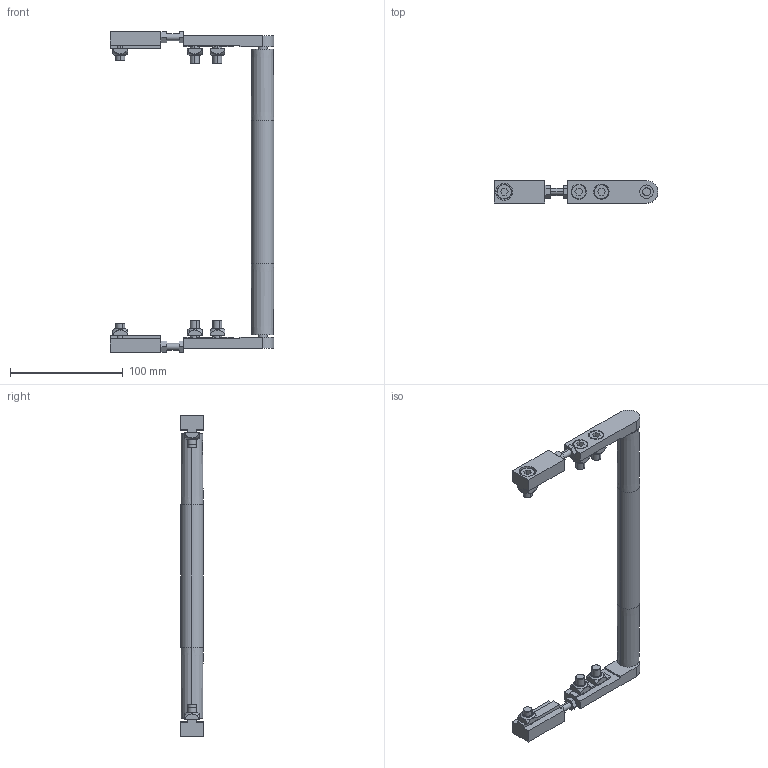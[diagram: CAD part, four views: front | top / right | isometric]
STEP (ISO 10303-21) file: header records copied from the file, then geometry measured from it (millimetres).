
FILE_DESCRIPTION (( 'STEP AP214' ), '1' );
FILE_NAME ('084.020.KI.229.STEP', '2021-02-05T13:55:09', ( '' ), ( '' ), 'SwSTEP 2.0', 'SolidWorks 2018', '' );
FILE_SCHEMA (( 'AUTOMOTIVE_DESIGN' ));
Length unit declared in the file: millimetre
Products named in the file (10): 084.800.038; 084.302.000 DADI ALUSIC 13x13-1_084.302.004; 084.800.012; 084.802.008; Circlip DIN 471 - 8 x 0.8_Circlip DIN 471 - 8 x 0.8; 084.800.007; 084.020.KI.229; 084.301.000 VITI ALUSIC_084.301.003; 084.800.008; 084.800.002
Assembly tree (27 placements, depth 2):
  084.020.KI.229
    084.802.008  x2
    084.301.000 VITI ALUSIC_084.301.003  x6
    084.302.000 DADI ALUSIC 13x13-1_084.302.004  x6
    084.800.038
    084.800.012  x4
    084.800.008  x2
    084.800.002  x2
    084.800.007  x2
    Circlip DIN 471 - 8 x 0.8_Circlip DIN 471 - 8 x 0.8  x2
Bounding box: 145 x 20 x 284 mm (x, y, z)
Volume: 104179.4 mm3; surface area: 69437.7 mm2
Topology: 31 solids, 31 shells, 664 faces, 1564 edges, 998 vertices
Faces by surface type: plane 262, cylinder 210, torus 112, cone 56, bspline 24
Entity records: 7452 total; most frequent: CARTESIAN_POINT 1561, DIRECTION 1208, ORIENTED_EDGE 1048, EDGE_CURVE 524, AXIS2_PLACEMENT_3D 474, VERTEX_POINT 337, LINE 260, VECTOR 260
